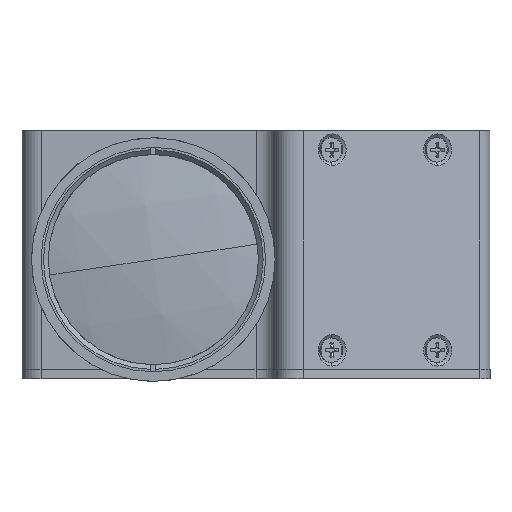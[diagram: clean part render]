
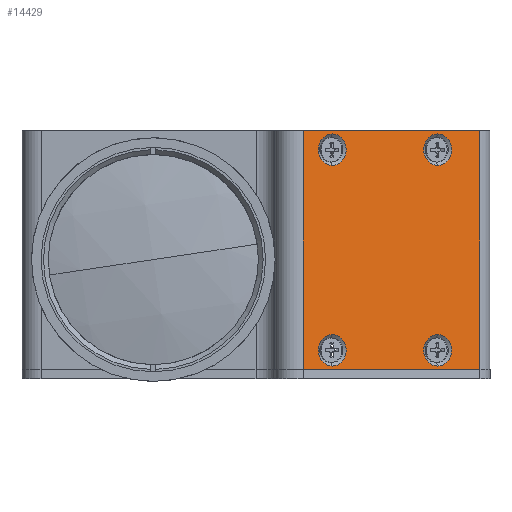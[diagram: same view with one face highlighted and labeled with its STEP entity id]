
A CAD part, left-side view. The second image highlights one B-rep face of the part: STEP entity #14429.
In plain terms, the highlighted planar face has unit normal (-0.883, -0.469, 0).
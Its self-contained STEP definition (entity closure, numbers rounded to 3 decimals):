
#106 = DIRECTION ( 'NONE',  ( -0.883, -0.469, 0. ) ) ;
#121 = VECTOR ( 'NONE', #12411, 1000. ) ;
#156 = CARTESIAN_POINT ( 'NONE',  ( 74.016, -37.475, -15.7 ) ) ;
#360 = DIRECTION ( 'NONE',  ( -0.883, -0.469, 0. ) ) ;
#471 = EDGE_CURVE ( 'NONE', #3663, #2212, #10425, .T. ) ;
#497 = LINE ( 'NONE', #11239, #121 ) ;
#500 = FACE_BOUND ( 'NONE', #13225, .T. ) ;
#533 = EDGE_CURVE ( 'NONE', #1493, #2212, #497, .T. ) ;
#579 = EDGE_CURVE ( 'NONE', #3663, #6447, #2579, .T. ) ;
#744 = EDGE_CURVE ( 'NONE', #9767, #13811, #14563, .T. ) ;
#761 = ORIENTED_EDGE ( 'NONE', *, *, #579, .F. ) ;
#783 = CIRCLE ( 'NONE', #12215, 3.3 ) ;
#787 = EDGE_CURVE ( 'NONE', #11265, #9757, #13851, .T. ) ;
#855 = EDGE_CURVE ( 'NONE', #1788, #15008, #4008, .T. ) ;
#876 = FACE_OUTER_BOUND ( 'NONE', #5542, .T. ) ;
#907 = CARTESIAN_POINT ( 'NONE',  ( 74.016, -37.475, 23. ) ) ;
#946 = EDGE_CURVE ( 'NONE', #14392, #4614, #8985, .T. ) ;
#1077 = ORIENTED_EDGE ( 'NONE', *, *, #14231, .F. ) ;
#1147 = AXIS2_PLACEMENT_3D ( 'NONE', #4365, #13496, #6660 ) ;
#1493 = VERTEX_POINT ( 'NONE', #11241 ) ;
#1788 = VERTEX_POINT ( 'NONE', #14090 ) ;
#2116 = DIRECTION ( 'NONE',  ( 0., 0., 1. ) ) ;
#2212 = VERTEX_POINT ( 'NONE', #11129 ) ;
#2249 = DIRECTION ( 'NONE',  ( -0.883, -0.469, 0. ) ) ;
#2579 = LINE ( 'NONE', #5689, #11311 ) ;
#2859 = ORIENTED_EDGE ( 'NONE', *, *, #471, .T. ) ;
#3095 = AXIS2_PLACEMENT_3D ( 'NONE', #7352, #360, #8469 ) ;
#3315 = FACE_BOUND ( 'NONE', #12501, .T. ) ;
#3374 = ORIENTED_EDGE ( 'NONE', *, *, #787, .F. ) ;
#3427 = AXIS2_PLACEMENT_3D ( 'NONE', #12687, #5867, #13866 ) ;
#3663 = VERTEX_POINT ( 'NONE', #11039 ) ;
#3866 = CIRCLE ( 'NONE', #7277, 3.3 ) ;
#3875 = AXIS2_PLACEMENT_3D ( 'NONE', #9099, #2249, #10230 ) ;
#4008 = CIRCLE ( 'NONE', #3427, 3.3 ) ;
#4116 = AXIS2_PLACEMENT_3D ( 'NONE', #7107, #106, #8241 ) ;
#4184 = AXIS2_PLACEMENT_3D ( 'NONE', #6896, #14895, #8038 ) ;
#4365 = CARTESIAN_POINT ( 'NONE',  ( 80.661, -49.971, 2. ) ) ;
#4389 = CARTESIAN_POINT ( 'NONE',  ( 74.016, -37.475, 26.3 ) ) ;
#4478 = CIRCLE ( 'NONE', #4116, 3.3 ) ;
#4571 = ORIENTED_EDGE ( 'NONE', *, *, #533, .F. ) ;
#4614 = VERTEX_POINT ( 'NONE', #5787 ) ;
#4703 = ORIENTED_EDGE ( 'NONE', *, *, #12148, .F. ) ;
#5320 = DIRECTION ( 'NONE',  ( -0.883, -0.469, 0. ) ) ;
#5542 = EDGE_LOOP ( 'NONE', ( #761, #2859, #4571, #8083 ) ) ;
#5688 = CARTESIAN_POINT ( 'NONE',  ( 90.448, -68.378, 2. ) ) ;
#5689 = CARTESIAN_POINT ( 'NONE',  ( 93.689, -74.473, -23. ) ) ;
#5785 = ORIENTED_EDGE ( 'NONE', *, *, #946, .F. ) ;
#5787 = CARTESIAN_POINT ( 'NONE',  ( 85.753, -59.548, 19.7 ) ) ;
#5867 = DIRECTION ( 'NONE',  ( -0.883, -0.469, 0. ) ) ;
#6260 = EDGE_CURVE ( 'NONE', #13811, #9767, #783, .T. ) ;
#6350 = FACE_BOUND ( 'NONE', #13951, .T. ) ;
#6439 = CARTESIAN_POINT ( 'NONE',  ( 74.016, -37.475, 19.7 ) ) ;
#6447 = VERTEX_POINT ( 'NONE', #9172 ) ;
#6660 = DIRECTION ( 'NONE',  ( 0., 0., 1. ) ) ;
#6785 = DIRECTION ( 'NONE',  ( -0.883, -0.469, 0. ) ) ;
#6846 = DIRECTION ( 'NONE',  ( -0.469, 0.883, 0. ) ) ;
#6896 = CARTESIAN_POINT ( 'NONE',  ( 74.016, -37.475, 23. ) ) ;
#7107 = CARTESIAN_POINT ( 'NONE',  ( 85.753, -59.548, 23. ) ) ;
#7277 = AXIS2_PLACEMENT_3D ( 'NONE', #12131, #5320, #13305 ) ;
#7352 = CARTESIAN_POINT ( 'NONE',  ( 85.753, -59.548, 23. ) ) ;
#7808 = CARTESIAN_POINT ( 'NONE',  ( 85.753, -59.548, -22.3 ) ) ;
#8000 = DIRECTION ( 'NONE',  ( 0., 0., 1. ) ) ;
#8038 = DIRECTION ( 'NONE',  ( 0., 0., 1. ) ) ;
#8083 = ORIENTED_EDGE ( 'NONE', *, *, #10453, .T. ) ;
#8241 = DIRECTION ( 'NONE',  ( 0., 0., 1. ) ) ;
#8469 = DIRECTION ( 'NONE',  ( 0., 0., 1. ) ) ;
#8979 = DIRECTION ( 'NONE',  ( -0.883, -0.469, 0. ) ) ;
#8985 = CIRCLE ( 'NONE', #3095, 3.3 ) ;
#9099 = CARTESIAN_POINT ( 'NONE',  ( 74.016, -37.475, -19. ) ) ;
#9172 = CARTESIAN_POINT ( 'NONE',  ( 70.758, -31.348, -23. ) ) ;
#9382 = FACE_BOUND ( 'NONE', #13772, .T. ) ;
#9619 = LINE ( 'NONE', #13040, #12274 ) ;
#9757 = VERTEX_POINT ( 'NONE', #14683 ) ;
#9767 = VERTEX_POINT ( 'NONE', #4389 ) ;
#10230 = DIRECTION ( 'NONE',  ( 0., 0., 1. ) ) ;
#10425 = LINE ( 'NONE', #5688, #13123 ) ;
#10453 = EDGE_CURVE ( 'NONE', #1493, #6447, #9619, .T. ) ;
#10813 = ORIENTED_EDGE ( 'NONE', *, *, #855, .F. ) ;
#11039 = CARTESIAN_POINT ( 'NONE',  ( 90.448, -68.378, -23. ) ) ;
#11129 = CARTESIAN_POINT ( 'NONE',  ( 90.448, -68.378, 27. ) ) ;
#11239 = CARTESIAN_POINT ( 'NONE',  ( 93.689, -74.473, 27. ) ) ;
#11241 = CARTESIAN_POINT ( 'NONE',  ( 70.758, -31.348, 27. ) ) ;
#11265 = VERTEX_POINT ( 'NONE', #156 ) ;
#11311 = VECTOR ( 'NONE', #6846, 1000. ) ;
#11534 = ORIENTED_EDGE ( 'NONE', *, *, #744, .F. ) ;
#11926 = AXIS2_PLACEMENT_3D ( 'NONE', #13622, #6785, #14784 ) ;
#12131 = CARTESIAN_POINT ( 'NONE',  ( 85.753, -59.548, -19. ) ) ;
#12148 = EDGE_CURVE ( 'NONE', #9757, #11265, #14000, .T. ) ;
#12215 = AXIS2_PLACEMENT_3D ( 'NONE', #907, #8979, #2116 ) ;
#12274 = VECTOR ( 'NONE', #14218, 1000. ) ;
#12327 = PLANE ( 'NONE',  #1147 ) ;
#12411 = DIRECTION ( 'NONE',  ( 0.469, -0.883, 0. ) ) ;
#12501 = EDGE_LOOP ( 'NONE', ( #11534, #12891 ) ) ;
#12687 = CARTESIAN_POINT ( 'NONE',  ( 85.753, -59.548, -19. ) ) ;
#12891 = ORIENTED_EDGE ( 'NONE', *, *, #6260, .F. ) ;
#12921 = ORIENTED_EDGE ( 'NONE', *, *, #13534, .F. ) ;
#13040 = CARTESIAN_POINT ( 'NONE',  ( 70.758, -31.348, 2. ) ) ;
#13123 = VECTOR ( 'NONE', #8000, 1000. ) ;
#13225 = EDGE_LOOP ( 'NONE', ( #10813, #1077 ) ) ;
#13305 = DIRECTION ( 'NONE',  ( 0., 0., 1. ) ) ;
#13352 = CARTESIAN_POINT ( 'NONE',  ( 85.753, -59.548, 26.3 ) ) ;
#13496 = DIRECTION ( 'NONE',  ( -0.883, -0.469, 0. ) ) ;
#13534 = EDGE_CURVE ( 'NONE', #4614, #14392, #4478, .T. ) ;
#13622 = CARTESIAN_POINT ( 'NONE',  ( 74.016, -37.475, -19. ) ) ;
#13772 = EDGE_LOOP ( 'NONE', ( #5785, #12921 ) ) ;
#13811 = VERTEX_POINT ( 'NONE', #6439 ) ;
#13851 = CIRCLE ( 'NONE', #3875, 3.3 ) ;
#13866 = DIRECTION ( 'NONE',  ( 0., 0., 1. ) ) ;
#13951 = EDGE_LOOP ( 'NONE', ( #3374, #4703 ) ) ;
#14000 = CIRCLE ( 'NONE', #11926, 3.3 ) ;
#14090 = CARTESIAN_POINT ( 'NONE',  ( 85.753, -59.548, -15.7 ) ) ;
#14218 = DIRECTION ( 'NONE',  ( 0., 0., -1. ) ) ;
#14231 = EDGE_CURVE ( 'NONE', #15008, #1788, #3866, .T. ) ;
#14392 = VERTEX_POINT ( 'NONE', #13352 ) ;
#14429 = ADVANCED_FACE ( 'NONE', ( #9382, #500, #6350, #3315, #876 ), #12327, .T. ) ;
#14563 = CIRCLE ( 'NONE', #4184, 3.3 ) ;
#14683 = CARTESIAN_POINT ( 'NONE',  ( 74.016, -37.475, -22.3 ) ) ;
#14784 = DIRECTION ( 'NONE',  ( 0., 0., 1. ) ) ;
#14895 = DIRECTION ( 'NONE',  ( -0.883, -0.469, 0. ) ) ;
#15008 = VERTEX_POINT ( 'NONE', #7808 ) ;
